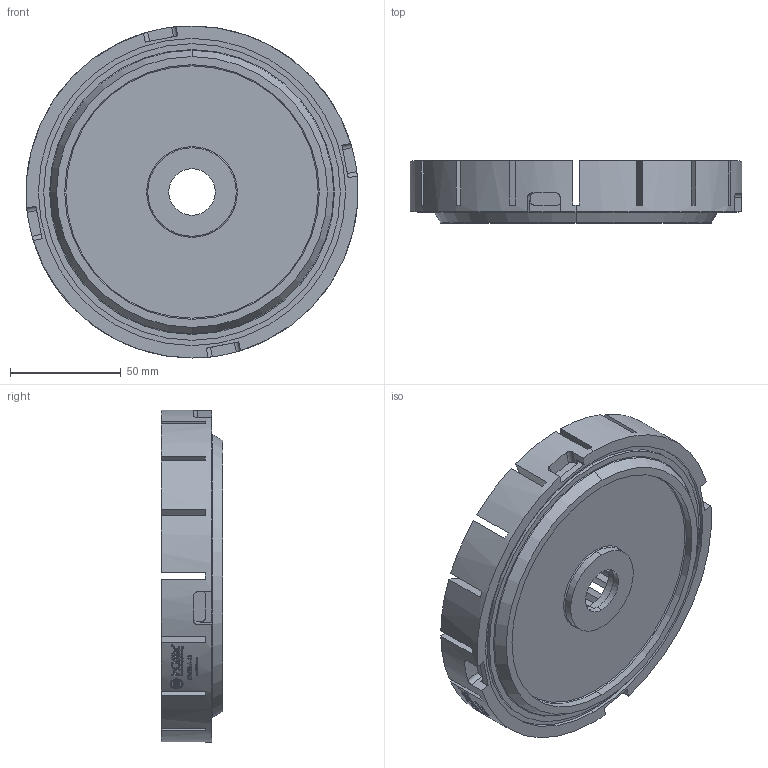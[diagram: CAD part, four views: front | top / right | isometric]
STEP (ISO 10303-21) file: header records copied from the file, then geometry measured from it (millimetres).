
FILE_DESCRIPTION (( 'STEP AP203' ), '1' );
FILE_NAME ('CR150 A-23.STEP', '2016-06-15T09:36:51', ( '' ), ( '' ), 'SwSTEP 2.0', 'SolidWorks 2016', '' );
FILE_SCHEMA (( 'CONFIG_CONTROL_DESIGN' ));
Products named in the file (1): CR150 A-23
Bounding box: 150 x 28 x 150 mm (x, y, z)
Volume: 352570.4 mm3; surface area: 90166.4 mm2
Topology: 1 solids, 1 shells, 1985 faces, 5654 edges, 3768 vertices
Faces by surface type: plane 1591, cylinder 384, torus 8, cone 2
Entity records: 65403 total; most frequent: CARTESIAN_POINT 17075, ORIENTED_EDGE 11308, DIRECTION 8691, EDGE_CURVE 5654, VERTEX_POINT 3768, VECTOR 3551, LINE 3551, AXIS2_PLACEMENT_3D 2570
